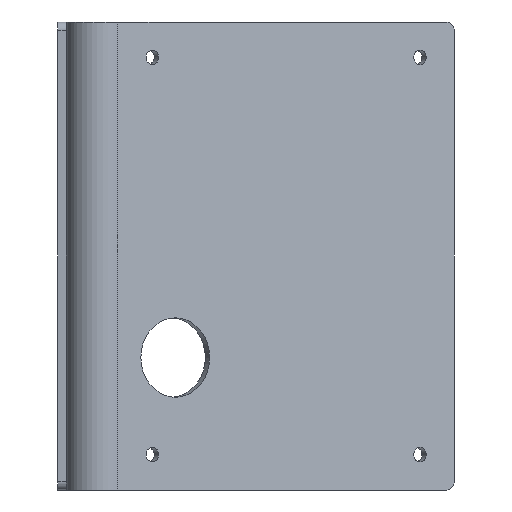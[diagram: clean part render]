
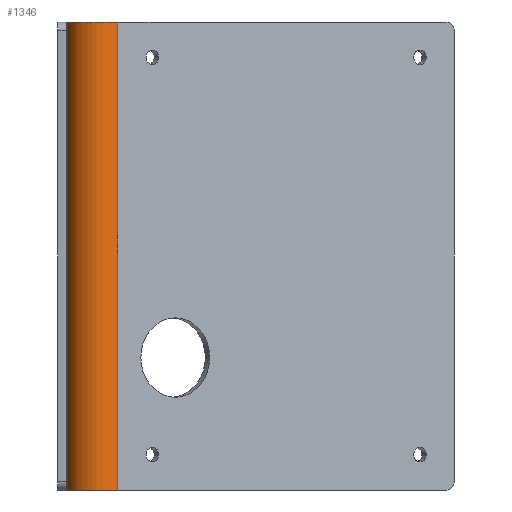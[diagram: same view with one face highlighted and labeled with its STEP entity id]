
A CAD part, front view. The second image highlights one B-rep face of the part: STEP entity #1346.
In plain terms, the highlighted cylindrical face has radius 7.33 mm (diameter 14.66 mm), a partial arc.
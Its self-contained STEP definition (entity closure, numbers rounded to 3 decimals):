
#105 = PLANE('',#106);
#106 = AXIS2_PLACEMENT_3D('',#107,#108,#109);
#107 = CARTESIAN_POINT('',(22.745,10.112,106.));
#108 = DIRECTION('',(0.,0.,1.));
#109 = DIRECTION('',(1.,0.,0.));
#223 = PLANE('',#224);
#224 = AXIS2_PLACEMENT_3D('',#225,#226,#227);
#225 = CARTESIAN_POINT('',(22.745,10.112,0.));
#226 = DIRECTION('',(0.,0.,1.));
#227 = DIRECTION('',(1.,0.,0.));
#586 = VERTEX_POINT('',#587);
#587 = CARTESIAN_POINT('',(0.,0.,0.));
#601 = PLANE('',#602);
#602 = AXIS2_PLACEMENT_3D('',#603,#604,#605);
#603 = CARTESIAN_POINT('',(0.,-40.,0.));
#604 = DIRECTION('',(-1.,0.,0.));
#605 = DIRECTION('',(0.,1.,0.));
#613 = EDGE_CURVE('',#586,#614,#616,.T.);
#614 = VERTEX_POINT('',#615);
#615 = CARTESIAN_POINT('',(11.662,-5.913,0.));
#616 = SURFACE_CURVE('',#617,(#622,#629),.PCURVE_S1.);
#617 = CIRCLE('',#618,7.33);
#618 = AXIS2_PLACEMENT_3D('',#619,#620,#621);
#619 = CARTESIAN_POINT('',(7.33,0.,0.));
#620 = DIRECTION('',(0.,0.,1.));
#621 = DIRECTION('',(1.,0.,0.));
#622 = PCURVE('',#223,#623);
#623 = DEFINITIONAL_REPRESENTATION('',(#624),#628);
#624 = CIRCLE('',#625,7.33);
#625 = AXIS2_PLACEMENT_2D('',#626,#627);
#626 = CARTESIAN_POINT('',(-15.415,-10.112));
#627 = DIRECTION('',(1.,0.));
#628 = ( GEOMETRIC_REPRESENTATION_CONTEXT(2) 
PARAMETRIC_REPRESENTATION_CONTEXT() REPRESENTATION_CONTEXT('2D SPACE',''
  ) );
#629 = PCURVE('',#630,#635);
#630 = CYLINDRICAL_SURFACE('',#631,7.33);
#631 = AXIS2_PLACEMENT_3D('',#632,#633,#634);
#632 = CARTESIAN_POINT('',(7.33,0.,0.));
#633 = DIRECTION('',(-0.,-0.,-1.));
#634 = DIRECTION('',(1.,0.,0.));
#635 = DEFINITIONAL_REPRESENTATION('',(#636),#640);
#636 = LINE('',#637,#638);
#637 = CARTESIAN_POINT('',(-0.,0.));
#638 = VECTOR('',#639,1.);
#639 = DIRECTION('',(-1.,0.));
#640 = ( GEOMETRIC_REPRESENTATION_CONTEXT(2) 
PARAMETRIC_REPRESENTATION_CONTEXT() REPRESENTATION_CONTEXT('2D SPACE',''
  ) );
#658 = PLANE('',#659);
#659 = AXIS2_PLACEMENT_3D('',#660,#661,#662);
#660 = CARTESIAN_POINT('',(11.662,-5.913,0.));
#661 = DIRECTION('',(-0.5,0.866,0.));
#662 = DIRECTION('',(0.866,0.5,0.));
#805 = VERTEX_POINT('',#806);
#806 = CARTESIAN_POINT('',(0.,0.,106.));
#827 = EDGE_CURVE('',#805,#828,#830,.T.);
#828 = VERTEX_POINT('',#829);
#829 = CARTESIAN_POINT('',(11.662,-5.913,106.));
#830 = SURFACE_CURVE('',#831,(#836,#843),.PCURVE_S1.);
#831 = CIRCLE('',#832,7.33);
#832 = AXIS2_PLACEMENT_3D('',#833,#834,#835);
#833 = CARTESIAN_POINT('',(7.33,0.,106.));
#834 = DIRECTION('',(0.,0.,1.));
#835 = DIRECTION('',(1.,0.,0.));
#836 = PCURVE('',#105,#837);
#837 = DEFINITIONAL_REPRESENTATION('',(#838),#842);
#838 = CIRCLE('',#839,7.33);
#839 = AXIS2_PLACEMENT_2D('',#840,#841);
#840 = CARTESIAN_POINT('',(-15.415,-10.112));
#841 = DIRECTION('',(1.,0.));
#842 = ( GEOMETRIC_REPRESENTATION_CONTEXT(2) 
PARAMETRIC_REPRESENTATION_CONTEXT() REPRESENTATION_CONTEXT('2D SPACE',''
  ) );
#843 = PCURVE('',#630,#844);
#844 = DEFINITIONAL_REPRESENTATION('',(#845),#849);
#845 = LINE('',#846,#847);
#846 = CARTESIAN_POINT('',(-0.,-106.));
#847 = VECTOR('',#848,1.);
#848 = DIRECTION('',(-1.,0.));
#849 = ( GEOMETRIC_REPRESENTATION_CONTEXT(2) 
PARAMETRIC_REPRESENTATION_CONTEXT() REPRESENTATION_CONTEXT('2D SPACE',''
  ) );
#1297 = EDGE_CURVE('',#586,#805,#1298,.T.);
#1298 = SURFACE_CURVE('',#1299,(#1303,#1310),.PCURVE_S1.);
#1299 = LINE('',#1300,#1301);
#1300 = CARTESIAN_POINT('',(0.,0.,0.));
#1301 = VECTOR('',#1302,1.);
#1302 = DIRECTION('',(0.,0.,1.));
#1303 = PCURVE('',#601,#1304);
#1304 = DEFINITIONAL_REPRESENTATION('',(#1305),#1309);
#1305 = LINE('',#1306,#1307);
#1306 = CARTESIAN_POINT('',(40.,0.));
#1307 = VECTOR('',#1308,1.);
#1308 = DIRECTION('',(0.,-1.));
#1309 = ( GEOMETRIC_REPRESENTATION_CONTEXT(2) 
PARAMETRIC_REPRESENTATION_CONTEXT() REPRESENTATION_CONTEXT('2D SPACE',''
  ) );
#1310 = PCURVE('',#630,#1311);
#1311 = DEFINITIONAL_REPRESENTATION('',(#1312),#1316);
#1312 = LINE('',#1313,#1314);
#1313 = CARTESIAN_POINT('',(-3.142,0.));
#1314 = VECTOR('',#1315,1.);
#1315 = DIRECTION('',(-0.,-1.));
#1316 = ( GEOMETRIC_REPRESENTATION_CONTEXT(2) 
PARAMETRIC_REPRESENTATION_CONTEXT() REPRESENTATION_CONTEXT('2D SPACE',''
  ) );
#1346 = ADVANCED_FACE('',(#1347),#630,.T.);
#1347 = FACE_BOUND('',#1348,.F.);
#1348 = EDGE_LOOP('',(#1349,#1350,#1351,#1372));
#1349 = ORIENTED_EDGE('',*,*,#1297,.T.);
#1350 = ORIENTED_EDGE('',*,*,#827,.T.);
#1351 = ORIENTED_EDGE('',*,*,#1352,.F.);
#1352 = EDGE_CURVE('',#614,#828,#1353,.T.);
#1353 = SURFACE_CURVE('',#1354,(#1358,#1365),.PCURVE_S1.);
#1354 = LINE('',#1355,#1356);
#1355 = CARTESIAN_POINT('',(11.662,-5.913,0.));
#1356 = VECTOR('',#1357,1.);
#1357 = DIRECTION('',(0.,0.,1.));
#1358 = PCURVE('',#630,#1359);
#1359 = DEFINITIONAL_REPRESENTATION('',(#1360),#1364);
#1360 = LINE('',#1361,#1362);
#1361 = CARTESIAN_POINT('',(-5.345,0.));
#1362 = VECTOR('',#1363,1.);
#1363 = DIRECTION('',(-0.,-1.));
#1364 = ( GEOMETRIC_REPRESENTATION_CONTEXT(2) 
PARAMETRIC_REPRESENTATION_CONTEXT() REPRESENTATION_CONTEXT('2D SPACE',''
  ) );
#1365 = PCURVE('',#658,#1366);
#1366 = DEFINITIONAL_REPRESENTATION('',(#1367),#1371);
#1367 = LINE('',#1368,#1369);
#1368 = CARTESIAN_POINT('',(0.,0.));
#1369 = VECTOR('',#1370,1.);
#1370 = DIRECTION('',(0.,-1.));
#1371 = ( GEOMETRIC_REPRESENTATION_CONTEXT(2) 
PARAMETRIC_REPRESENTATION_CONTEXT() REPRESENTATION_CONTEXT('2D SPACE',''
  ) );
#1372 = ORIENTED_EDGE('',*,*,#613,.F.);
